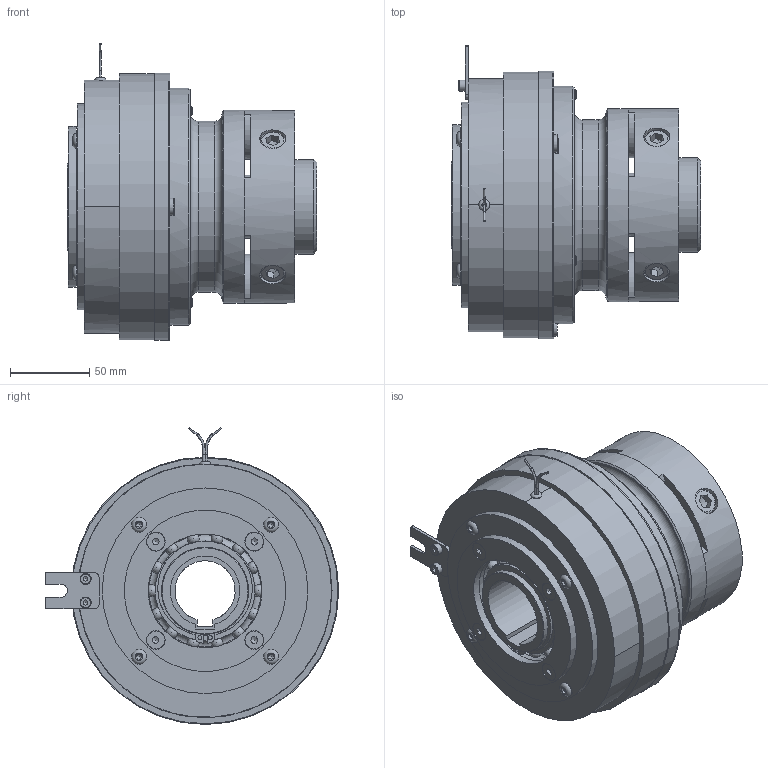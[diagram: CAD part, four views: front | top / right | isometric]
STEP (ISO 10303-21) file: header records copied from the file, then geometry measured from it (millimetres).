
FILE_DESCRIPTION(/* description */ (''),/* implementation_level */ '2;1');
FILE_NAME(/* name */ 'X:\INVENTOR\DISEGNI\08_Freni_Friz_Elettmag_Monodisco\08_26 EMSL_DF\EMSL_DF STEP\08_26_170_51 EMSL170_DF-GE@STEP.stp',/* time_stamp */ '2018-04-24T10:15:00+02:00',/* author */ ('stefano'),/* organization */ (''),/* preprocessor_version */ 'ST-DEVELOPER v17',/* originating_system */ 'Autodesk Inventor 2018',/* authorisation */ '');
FILE_SCHEMA (('AUTOMOTIVE_DESIGN { 1 0 10303 214 3 1 1 }'));
Length unit declared in the file: millimetre
Products named in the file (1): 08_26_170_51 EMSL170_DF-GE_Substitute_1
Bounding box: 158 x 185.5 x 187.72 mm (x, y, z)
Volume: 1559487.1 mm3; surface area: 339596.7 mm2
Topology: 3 solids, 3 shells, 736 faces, 2272 edges, 1560 vertices
Faces by surface type: plane 307, cylinder 242, torus 85, cone 72, sphere 28, bspline 2
Full cylindrical faces by diameter (mm): 1.154 x2, 1.5 x4, 2.5 x2, 4.917 x4, 6 x15, 6.5 x4, 7 x2, 8.376 x4, 9.5 x4, 10 x3, 10.5 x4, 11 x6, 11.34 x4, 12 x7, 16 x8, 16.5 x8, 52 x2, 55 x4, 60 x2, 63 x5, 66 x1, 72 x6, 74 x1, 80 x2, 90 x2, 92 x1, 93.5 x1, 99.5 x1, 100 x1, 102 x1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
Entity records: 29235 total; most frequent: CARTESIAN_POINT 8419, ORIENTED_EDGE 4376, DIRECTION 4275, EDGE_CURVE 2188, AXIS2_PLACEMENT_3D 1788, VERTEX_POINT 1564, CIRCLE 1053, EDGE_LOOP 967
